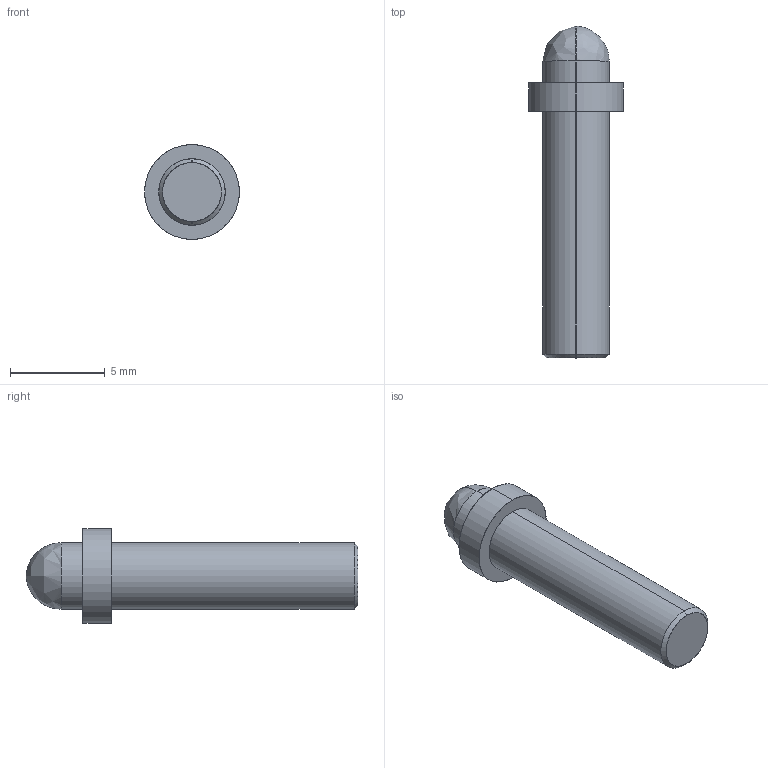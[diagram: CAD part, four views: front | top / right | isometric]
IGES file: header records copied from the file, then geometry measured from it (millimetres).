
Start section: SolidWorks IGES FILE using analytic representation for surfaces
Global section: file name: C:\Documents and Settings\lecoutey\Bureau\GP 2029\2029.100.00.IGS; native system: SolidWorks 2004 by SolidWorks Corporation; preprocessor: Version 5.3; author: lecoutey; date: 050329.160318; units: millimetre
Bounding box: 5 x 17.5 x 5 mm (x, y, z)
Surface area: 227.2 mm2 (no closed solid volume)
Topology: 0 solids, 0 shells, 13 faces, 200 edges, 198 vertices
Faces by surface type: revolution 8, bspline 5
